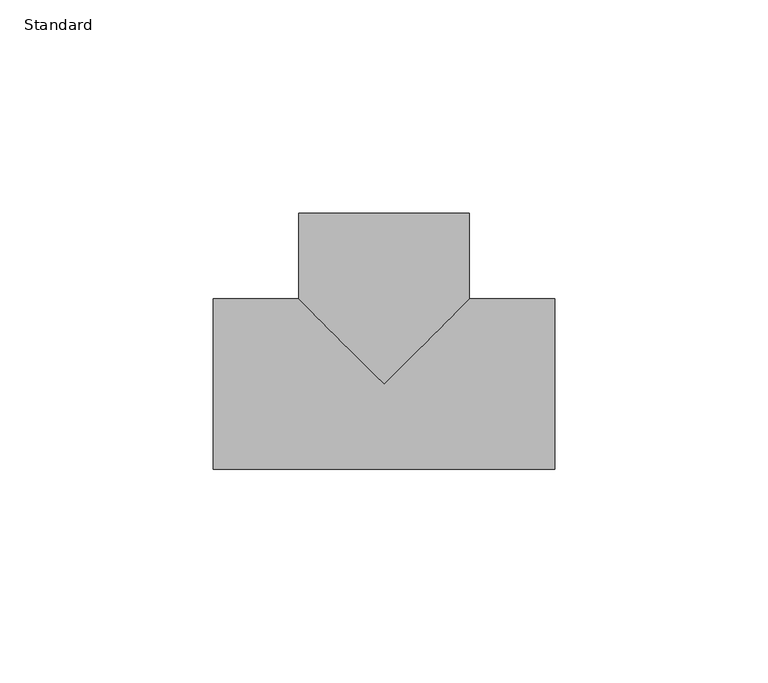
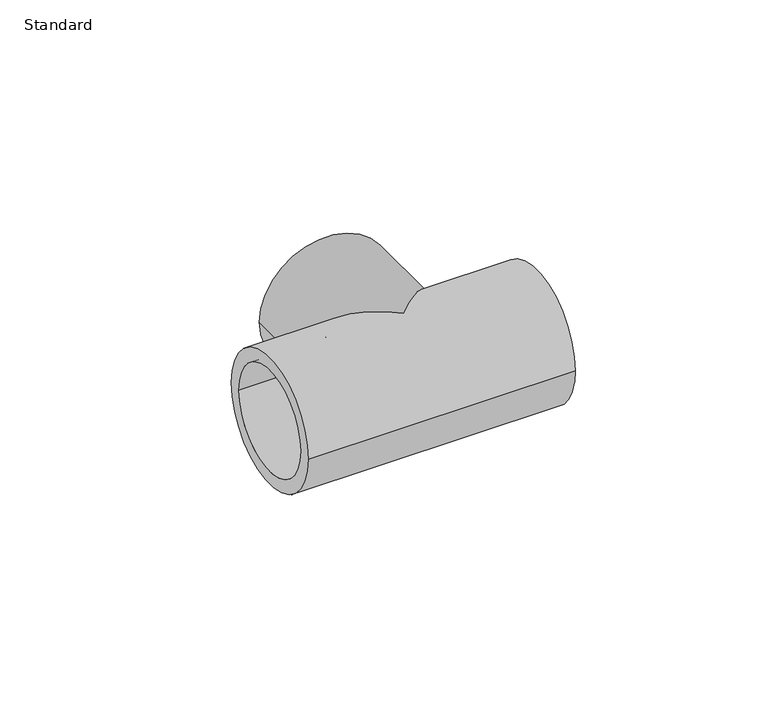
"""IFC4 building model written with IfcOpenShell, lengths in millimetres: pipe fitting geometry, Durapipe_PipeFitting_PVC_Tee90degEqual : Standard."""

from ifc_helpers import new_model, si_unit, frame, origin, place, context, project, spatial, polyline, circle_curve, ellipse_curve, source, transform, mapped, element, save
from ifc_brep_helpers import plane_surface, cylinder_surface, revolved_surface, advanced_brep


def standard_50e1fd76(model_context):
    return source(origin(), model_context, "Body", "AdvancedBrep", [
        advanced_brep(
        [(-20.0, 40.0, 0.0), (20.0, 40.0, 0.0), (-16.0, 40.0, 0.0), (16.0, 40.0, 0.0), (-20.0, 20.0, 0.0), (0.0, 0.0, 20.0), (20.0, 20.0, 0.0), (0.0, 0.0, -20.0), (-40.0, -20.0, 0.0), (-40.0, 20.0, 0.0), (-40.0, -16.0, 0.0), (-40.0, 16.0, 0.0), (40.0, -20.0, 0.0), (40.0, 20.0, 0.0), (40.0, 16.0, 0.0), (40.0, -16.0, 0.0), (16.0, 18.0, 0.0), (-16.0, 18.0, 0.0), (0.0, 18.0, 0.0), (18.0, -16.0, 0.0), (18.0, 16.0, 0.0), (18.0, 0.0, 0.0), (-18.0, -16.0, 0.0), (-18.0, 16.0, 0.0), (-18.0, 0.0, 0.0)],
        [
            (0, 1, circle_curve(frame((0.0, 40.0, 0.0), z_axis=(0.0, 1.0, 0.0), x_axis=(1.0, 0.0, 0.0)), 20.0)),
            (1, 0, circle_curve(frame((0.0, 40.0, 0.0), z_axis=(0.0, 1.0, 0.0), x_axis=(1.0, 0.0, 0.0)), 20.0)),
            (2, 3, circle_curve(frame((0.0, 40.0, 0.0), z_axis=(0.0, -1.0, 0.0), x_axis=(-1.0, 0.0, 0.0)), 16.0)),
            (3, 2, circle_curve(frame((0.0, 40.0, 0.0), z_axis=(0.0, -1.0, 0.0), x_axis=(-1.0, 0.0, 0.0)), 16.0)),
            (0, 4),
            (4, 5, ellipse_curve(frame((0.0, 0.0, 0.0), z_axis=(0.7071067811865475, 0.7071067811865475, 0.0), x_axis=(-0.7071067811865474, 0.7071067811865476, 0.0)), 28.2842712, 20.0)),
            (5, 6, ellipse_curve(frame((0.0, 0.0, 0.0), z_axis=(-0.7071067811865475, 0.7071067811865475, 0.0), x_axis=(0.7071067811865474, 0.7071067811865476, 0.0)), 28.2842712, 20.0)),
            (6, 1),
            (6, 7, ellipse_curve(frame((0.0, 0.0, 0.0), z_axis=(-0.7071067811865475, 0.7071067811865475, 0.0), x_axis=(0.7071067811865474, 0.7071067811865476, 0.0)), 28.2842712, 20.0)),
            (7, 4, ellipse_curve(frame((0.0, 0.0, 0.0), z_axis=(0.7071067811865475, 0.7071067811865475, 0.0), x_axis=(-0.7071067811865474, 0.7071067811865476, 0.0)), 28.2842712, 20.0)),
            (8, 9, circle_curve(frame((-40.0, 0.0, 0.0), z_axis=(-1.0, 0.0, 0.0), x_axis=(0.0, 1.0, 0.0)), 20.0)),
            (9, 8, circle_curve(frame((-40.0, 0.0, 0.0), z_axis=(-1.0, 0.0, 0.0), x_axis=(0.0, 1.0, 0.0)), 20.0)),
            (10, 11, circle_curve(frame((-40.0, 0.0, 0.0), z_axis=(1.0, 0.0, 0.0), x_axis=(0.0, 1.0, 0.0)), 16.0)),
            (11, 10, circle_curve(frame((-40.0, 0.0, 0.0), z_axis=(1.0, 0.0, 0.0), x_axis=(0.0, 1.0, 0.0)), 16.0)),
            (12, 13, circle_curve(frame((40.0, 0.0, 0.0), z_axis=(1.0, 0.0, 0.0), x_axis=(0.0, 1.0, 0.0)), 20.0)),
            (13, 12, circle_curve(frame((40.0, 0.0, 0.0), z_axis=(1.0, 0.0, 0.0), x_axis=(0.0, 1.0, 0.0)), 20.0)),
            (14, 15, circle_curve(frame((40.0, 0.0, 0.0), z_axis=(-1.0, 0.0, 0.0), x_axis=(0.0, 1.0, 0.0)), 16.0)),
            (15, 14, circle_curve(frame((40.0, 0.0, 0.0), z_axis=(-1.0, 0.0, 0.0), x_axis=(0.0, 1.0, 0.0)), 16.0)),
            (8, 12),
            (13, 6),
            (4, 9),
            (16, 3),
            (2, 17),
            (17, 16, circle_curve(frame((0.0, 18.0, 0.0), z_axis=(0.0, -1.0, 0.0), x_axis=(-1.0, 0.0, 0.0)), 16.0)),
            (16, 17, circle_curve(frame((0.0, 18.0, 0.0), z_axis=(0.0, -1.0, 0.0), x_axis=(-1.0, 0.0, 0.0)), 16.0)),
            (17, 18),
            (18, 16),
            (19, 15),
            (14, 20),
            (20, 19, circle_curve(frame((18.0, 0.0, 0.0), z_axis=(-1.0, 0.0, 0.0), x_axis=(0.0, 1.0, 0.0)), 16.0)),
            (19, 20, circle_curve(frame((18.0, 0.0, 0.0), z_axis=(-1.0, 0.0, 0.0), x_axis=(0.0, 1.0, 0.0)), 16.0)),
            (20, 21),
            (21, 19),
            (10, 22),
            (22, 23, circle_curve(frame((-18.0, 0.0, 0.0), z_axis=(1.0, 0.0, 0.0), x_axis=(0.0, 1.0, 0.0)), 16.0)),
            (23, 11),
            (23, 22, circle_curve(frame((-18.0, 0.0, 0.0), z_axis=(1.0, 0.0, 0.0), x_axis=(0.0, 1.0, 0.0)), 16.0)),
            (22, 24),
            (24, 23),
        ],
        [
            plane_surface(frame((0.0, 40.0, 0.0), z_axis=(0.0, 1.0, 0.0), x_axis=(0.0, 0.0, 1.0))),
            cylinder_surface(frame((0.0, 40.0, 0.0), z_axis=(0.0, 1.0, 0.0), x_axis=(1.0, 0.0, 0.0)), 20.0),
            plane_surface(frame((-40.0, 0.0, 0.0), z_axis=(-1.0, 0.0, 0.0), x_axis=(0.0, 0.0, 1.0))),
            plane_surface(frame((40.0, 0.0, 0.0), z_axis=(1.0, 0.0, 0.0), x_axis=(0.0, 0.0, 1.0))),
            cylinder_surface(frame((-40.0, 0.0, 0.0), z_axis=(-1.0, 0.0, 0.0), x_axis=(0.0, 1.0, 0.0)), 20.0),
            revolved_surface(polyline([(-16.0, 18.0, 0.0), (-16.0, 40.0, 0.0)]), (0.0, 2015.0, 0.0), (0.0, -1.0, 0.0)),
            plane_surface(frame((0.0, 18.0, 0.0), z_axis=(0.0, 1.0, 0.0), x_axis=(-1.0, 0.0, 0.0))),
            revolved_surface(polyline([(18.0, 16.0, 0.0), (40.0, 16.0, 0.0)]), (2016.5, 0.0, 0.0), (-1.0, 0.0, 0.0)),
            plane_surface(frame((18.0, 0.0, 0.0), z_axis=(1.0, 0.0, 0.0), x_axis=(0.0, 1.0, 0.0))),
            revolved_surface(polyline([(-40.0, 16.0, 0.0), (-18.0, 16.0, 0.0)]), (2016.5, 0.0, 0.0), (-1.0, 0.0, 0.0)),
            plane_surface(frame((-18.0, 0.0, 0.0), z_axis=(-1.0, 0.0, 0.0), x_axis=(0.0, 1.0, 0.0))),
        ],
        [
            (0, [[1, 2], [3, 4]]),
            (1, [[-1, 5, 6, 7, 8]]),
            (1, [[-2, -8, 9, 10, -5]]),
            (2, [[11, 12], [13, 14]]),
            (3, [[15, 16], [17, 18]]),
            (4, [[-11, 19, -16, 20, -7, -6, 21]]),
            (4, [[-12, -21, -10, -9, -20, -15, -19]]),
            (5, [[22, -3, 23, 24]]),
            (5, [[-22, 25, -23, -4]]),
            (6, [[-24, 26, 27]]),
            (6, [[-25, -27, -26]]),
            (7, [[28, -17, 29, 30]]),
            (7, [[-28, 31, -29, -18]]),
            (8, [[-30, 32, 33]]),
            (8, [[-31, -33, -32]]),
            (9, [[34, 35, 36, -13]]),
            (9, [[-34, -14, -36, 37]]),
            (10, [[-35, 38, 39]]),
            (10, [[-37, -39, -38]]),
        ],
    ),
    ])


if __name__ == "__main__":
    model = new_model("IFC4")
    model_context = context("Model", 3, world=origin())
    ifc_project = project(units=[si_unit("LENGTHUNIT", "METRE", prefix="MILLI")], contexts=[model_context])
    site = spatial("IfcSite", under=ifc_project)
    building = spatial("IfcBuilding", under=site)
    placement = place(None, origin())
    standard_shape = standard_50e1fd76(model_context)
    element("IfcPipeFitting", 1, ObjectType="Durapipe_PipeFitting_PVC_Tee90degEqual : Standard", at=placement, inside=building, context=model_context, shape_type="MappedRepresentation", body=[
        mapped(standard_shape, transform((0.0, 0.0, 0.0), x_axis=(1.0, 0.0, 0.0), y_axis=(0.0, 1.0, 0.0), z_axis=(0.0, 0.0, 1.0))),
    ])
    save(model, "model.ifc")
